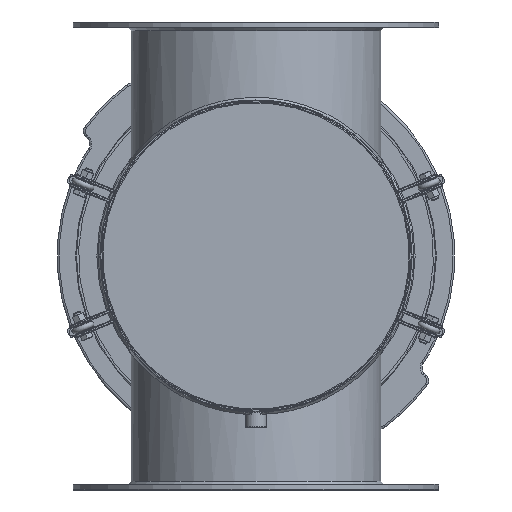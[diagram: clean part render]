
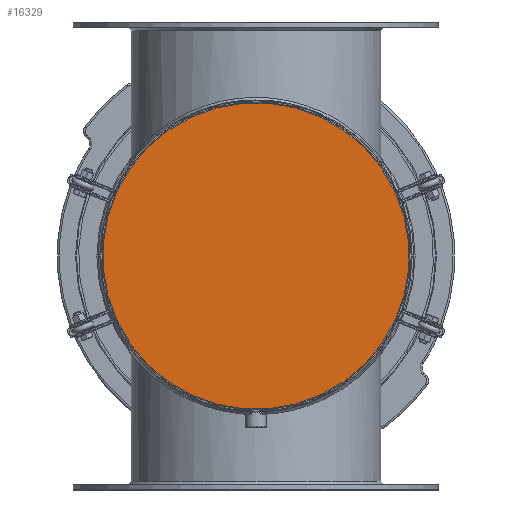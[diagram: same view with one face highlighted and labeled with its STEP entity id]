
A CAD part, front view. The second image highlights one B-rep face of the part: STEP entity #16329.
In plain terms, the highlighted planar face has unit normal (0, -1, 0).
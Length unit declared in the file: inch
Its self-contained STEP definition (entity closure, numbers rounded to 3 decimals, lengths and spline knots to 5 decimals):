
#1538=CIRCLE('',#17510,9.825);
#3343=FACE_OUTER_BOUND('',#4450,.T.);
#4450=EDGE_LOOP('',(#11717));
#7658=VERTEX_POINT('',#29289);
#9157=EDGE_CURVE('',#7658,#7658,#1538,.T.);
#11717=ORIENTED_EDGE('',*,*,#9157,.F.);
#15965=PLANE('',#17513);
#16329=ADVANCED_FACE('',(#3343),#15965,.F.);
#17510=AXIS2_PLACEMENT_3D('',#29290,#20128,#20129);
#17513=AXIS2_PLACEMENT_3D('',#29294,#20134,#20135);
#20128=DIRECTION('center_axis',(0.,1.,0.));
#20129=DIRECTION('ref_axis',(1.,0.,0.));
#20134=DIRECTION('center_axis',(0.,1.,0.));
#20135=DIRECTION('ref_axis',(0.,0.,1.));
#29289=CARTESIAN_POINT('',(-9.825,0.,0.));
#29290=CARTESIAN_POINT('Origin',(0.,0.,0.));
#29294=CARTESIAN_POINT('Origin',(0.,0.,0.));
